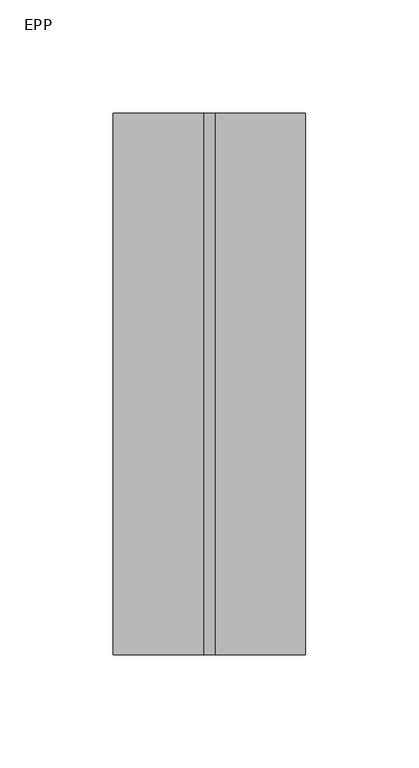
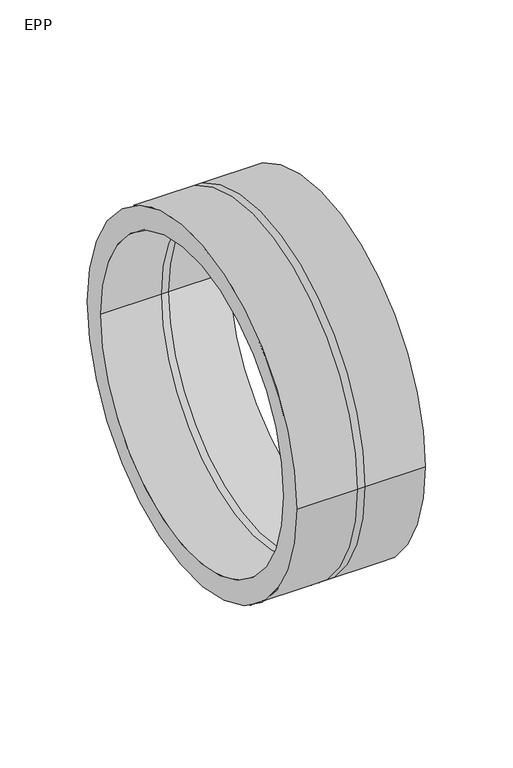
"""IFC4 building model written with IfcOpenShell, lengths in millimetres: duct fitting geometry, NLRS_57_DUF_UN_sleeve joint EPP_M&G : EPP."""

from ifc_helpers import new_model, si_unit, frame, origin, place, context, project, spatial, polyline, circle_curve, source, transform, mapped, element, save
from ifc_brep_helpers import plane_surface, cylinder_surface, revolved_surface, advanced_brep


def epp_d34e0886(model_context):
    return source(origin(), model_context, "Body", "AdvancedBrep", [
        advanced_brep(
        [(-42.5, -119.5, 0.0), (-42.5, 119.5, 0.0), (-42.5, -104.5, 0.0), (-42.5, 104.5, 0.0), (-2.5, -119.5, 0.0), (-2.5, 119.5, 0.0), (-2.5, -104.5, 0.0), (-2.5, 104.5, 0.0), (2.5, -119.5, 0.0), (2.5, 119.5, 0.0), (42.5, -119.5, 0.0), (42.5, 119.5, 0.0), (42.5, -104.5, 0.0), (42.5, 104.5, 0.0), (2.5, 104.5, 0.0), (2.5, -104.5, 0.0)],
        [
            (0, 1, circle_curve(frame((-42.5, 0.0, 0.0), z_axis=(-1.0, 0.0, 0.0), x_axis=(0.0, 1.0, 0.0)), 119.5)),
            (1, 0, circle_curve(frame((-42.5, 0.0, 0.0), z_axis=(-1.0, 0.0, 0.0), x_axis=(0.0, 1.0, 0.0)), 119.5)),
            (2, 3, circle_curve(frame((-42.5, 0.0, 0.0), z_axis=(1.0, 0.0, 0.0), x_axis=(0.0, 1.0, 0.0)), 104.5)),
            (3, 2, circle_curve(frame((-42.5, 0.0, 0.0), z_axis=(1.0, 0.0, 0.0), x_axis=(0.0, 1.0, 0.0)), 104.5)),
            (0, 4),
            (4, 5, circle_curve(frame((-2.5, 0.0, 0.0), z_axis=(-1.0, 0.0, 0.0), x_axis=(0.0, 1.0, 0.0)), 119.5)),
            (5, 1),
            (5, 4, circle_curve(frame((-2.5, 0.0, 0.0), z_axis=(-1.0, 0.0, 0.0), x_axis=(0.0, 1.0, 0.0)), 119.5)),
            (2, 6),
            (6, 7, circle_curve(frame((-2.5, 0.0, 0.0), z_axis=(1.0, 0.0, 0.0), x_axis=(0.0, 1.0, 0.0)), 104.5)),
            (7, 3),
            (7, 6, circle_curve(frame((-2.5, 0.0, 0.0), z_axis=(1.0, 0.0, 0.0), x_axis=(0.0, 1.0, 0.0)), 104.5)),
            (4, 8),
            (8, 9, circle_curve(frame((2.5, 0.0, 0.0), z_axis=(-1.0, 0.0, 0.0), x_axis=(0.0, 1.0, 0.0)), 119.5)),
            (9, 5),
            (9, 8, circle_curve(frame((2.5, 0.0, 0.0), z_axis=(-1.0, 0.0, 0.0), x_axis=(0.0, 1.0, 0.0)), 119.5)),
            (10, 11, circle_curve(frame((42.5, 0.0, 0.0), z_axis=(1.0, 0.0, 0.0), x_axis=(0.0, 1.0, 0.0)), 119.5)),
            (11, 10, circle_curve(frame((42.5, 0.0, 0.0), z_axis=(1.0, 0.0, 0.0), x_axis=(0.0, 1.0, 0.0)), 119.5)),
            (12, 13, circle_curve(frame((42.5, 0.0, 0.0), z_axis=(-1.0, 0.0, 0.0), x_axis=(0.0, 1.0, 0.0)), 104.5)),
            (13, 12, circle_curve(frame((42.5, 0.0, 0.0), z_axis=(-1.0, 0.0, 0.0), x_axis=(0.0, 1.0, 0.0)), 104.5)),
            (11, 9),
            (8, 10),
            (13, 14),
            (14, 15, circle_curve(frame((2.5, 0.0, 0.0), z_axis=(-1.0, 0.0, 0.0), x_axis=(0.0, 1.0, 0.0)), 104.5)),
            (15, 12),
            (15, 14, circle_curve(frame((2.5, 0.0, 0.0), z_axis=(-1.0, 0.0, 0.0), x_axis=(0.0, 1.0, 0.0)), 104.5)),
            (6, 15),
            (14, 7),
        ],
        [
            plane_surface(frame((-42.5, 0.0, 0.0), z_axis=(-1.0, 0.0, 0.0), x_axis=(0.0, 0.0, 1.0))),
            cylinder_surface(frame((-42.5, 0.0, 0.0), z_axis=(-1.0, 0.0, 0.0), x_axis=(0.0, 1.0, 0.0)), 119.5),
            revolved_surface(polyline([(-2.5, 104.5, 0.0), (-42.5, 104.5, 0.0)]), (-42.5, 0.0, 0.0), (1.0, 0.0, 0.0)),
            cylinder_surface(frame((-2.5, 0.0, 0.0), z_axis=(-1.0, 0.0, 0.0), x_axis=(0.0, 1.0, 0.0)), 119.5),
            plane_surface(frame((42.5, 0.0, 0.0), z_axis=(1.0, 0.0, 0.0), x_axis=(0.0, 0.0, 1.0))),
            cylinder_surface(frame((2.5, 0.0, 0.0), z_axis=(-1.0, 0.0, 0.0), x_axis=(0.0, 1.0, 0.0)), 119.5),
            revolved_surface(polyline([(42.5, 104.5, 0.0), (2.5, 104.5, 0.0)]), (2.5, 0.0, 0.0), (1.0, 0.0, 0.0)),
            revolved_surface(polyline([(2.5, 104.5, 0.0), (-2.5, 104.5, 0.0)]), (-2.5, 0.0, 0.0), (1.0, 0.0, 0.0)),
        ],
        [
            (0, [[1, 2], [3, 4]]),
            (1, [[-1, 5, 6, 7]]),
            (1, [[-2, -7, 8, -5]]),
            (2, [[-3, 9, 10, 11]]),
            (2, [[-4, -11, 12, -9]]),
            (3, [[13, 14, 15, -6]]),
            (3, [[-13, -8, -15, 16]]),
            (4, [[17, 18], [19, 20]]),
            (5, [[-18, 21, -14, 22]]),
            (5, [[-17, -22, -16, -21]]),
            (6, [[-20, 23, 24, 25]]),
            (6, [[-19, -25, 26, -23]]),
            (7, [[27, -24, 28, -10]]),
            (7, [[-27, -12, -28, -26]]),
        ],
    ),
    ])


if __name__ == "__main__":
    model = new_model("IFC4")
    model_context = context("Model", 3, world=origin())
    ifc_project = project(units=[si_unit("LENGTHUNIT", "METRE", prefix="MILLI")], contexts=[model_context])
    site = spatial("IfcSite", under=ifc_project)
    building = spatial("IfcBuilding", under=site)
    placement = place(None, origin())
    epp_shape = epp_d34e0886(model_context)
    element("IfcDuctFitting", 1, ObjectType="NLRS_57_DUF_UN_sleeve joint EPP_M&G : EPP", at=placement, inside=building, context=model_context, shape_type="MappedRepresentation", body=[
        mapped(epp_shape, transform((0.0, 0.0, 0.0), x_axis=(1.0, 0.0, 0.0), y_axis=(0.0, 1.0, 0.0), z_axis=(0.0, 0.0, 1.0))),
    ])
    save(model, "model.ifc")
